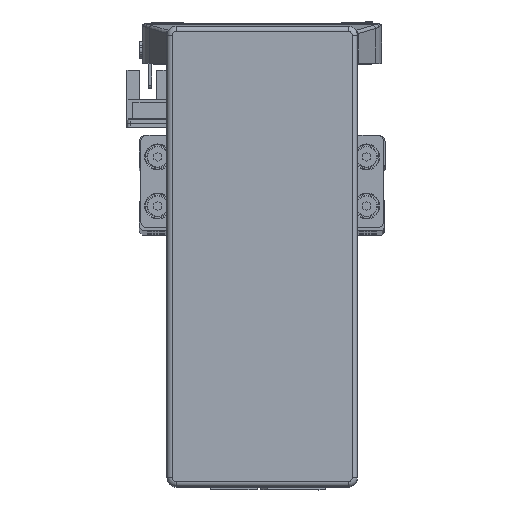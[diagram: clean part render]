
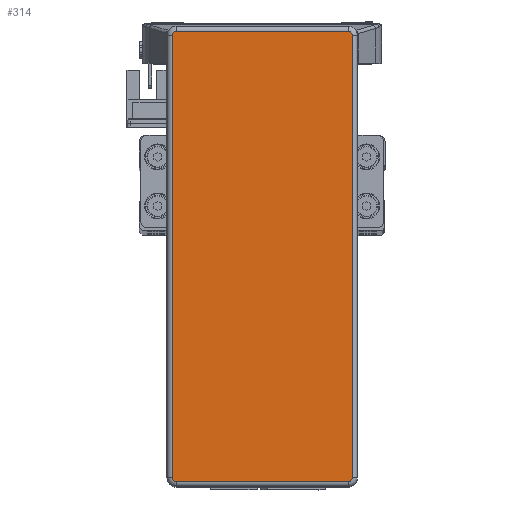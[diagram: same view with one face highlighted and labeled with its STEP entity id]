
A CAD part, top view. The second image highlights one B-rep face of the part: STEP entity #314.
In plain terms, the highlighted planar face has unit normal (0, 0, 1) as drawn and (0, 0, -1) by its records, which use the part's own axes.
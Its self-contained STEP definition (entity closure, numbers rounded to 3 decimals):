
#314 = ADVANCED_FACE ( 'NONE', ( #21073 ), #29589, .F. ) ;
#1032 = AXIS2_PLACEMENT_3D ( 'NONE', #20734, #20661, #20673 ) ;
#1038 = AXIS2_PLACEMENT_3D ( 'NONE', #20230, #20223, #20214 ) ;
#1049 = AXIS2_PLACEMENT_3D ( 'NONE', #20075, #20001, #20077 ) ;
#1100 = AXIS2_PLACEMENT_3D ( 'NONE', #20123, #20165, #20166 ) ;
#8658 = CARTESIAN_POINT ( 'NONE',  ( -73.295, -27.995, -32.2 ) ) ;
#8675 = CARTESIAN_POINT ( 'NONE',  ( 73.295, 27.995, -32.2 ) ) ;
#8703 = CARTESIAN_POINT ( 'NONE',  ( -73.295, 27.995, -32.2 ) ) ;
#8725 = CARTESIAN_POINT ( 'NONE',  ( -71.995, 29.295, -32.2 ) ) ;
#8738 = CARTESIAN_POINT ( 'NONE',  ( 73.295, -27.995, -32.2 ) ) ;
#9630 = CIRCLE ( 'NONE', #1100, 1.3 ) ;
#9636 = LINE ( 'NONE', #20069, #9665 ) ;
#9641 = LINE ( 'NONE', #20045, #9687 ) ;
#9643 = CIRCLE ( 'NONE', #1049, 1.3 ) ;
#9644 = LINE ( 'NONE', #20031, #9692 ) ;
#9647 = CIRCLE ( 'NONE', #1038, 1.3 ) ;
#9648 = VECTOR ( 'NONE', #20234, 1000. ) ;
#9665 = VECTOR ( 'NONE', #20073, 1000. ) ;
#9675 = LINE ( 'NONE', #20224, #9648 ) ;
#9687 = VECTOR ( 'NONE', #19988, 1000. ) ;
#9692 = VECTOR ( 'NONE', #20016, 1000. ) ;
#9711 = CIRCLE ( 'NONE', #1032, 1.3 ) ;
#17332 = EDGE_LOOP ( 'NONE', ( #22230, #22211, #22259, #22244, #22200, #22212, #22260, #22227 ) ) ;
#19290 = VERTEX_POINT ( 'NONE', #38061 ) ;
#19312 = VERTEX_POINT ( 'NONE', #38136 ) ;
#19314 = VERTEX_POINT ( 'NONE', #38126 ) ;
#19988 = DIRECTION ( 'NONE',  ( -1., 0., 0. ) ) ;
#20001 = DIRECTION ( 'NONE',  ( 0., 0., -1. ) ) ;
#20016 = DIRECTION ( 'NONE',  ( 0., -1., 0. ) ) ;
#20031 = CARTESIAN_POINT ( 'NONE',  ( 73.295, -27.995, -32.2 ) ) ;
#20045 = CARTESIAN_POINT ( 'NONE',  ( 71.995, -29.295, -32.2 ) ) ;
#20069 = CARTESIAN_POINT ( 'NONE',  ( 71.995, 29.295, -32.2 ) ) ;
#20073 = DIRECTION ( 'NONE',  ( 1., 0., 0. ) ) ;
#20075 = CARTESIAN_POINT ( 'NONE',  ( -71.995, 27.995, -32.2 ) ) ;
#20077 = DIRECTION ( 'NONE',  ( 1., 0., 0. ) ) ;
#20123 = CARTESIAN_POINT ( 'NONE',  ( 71.995, 27.995, -32.2 ) ) ;
#20165 = DIRECTION ( 'NONE',  ( 0., 0., -1. ) ) ;
#20166 = DIRECTION ( 'NONE',  ( 1., 0., 0. ) ) ;
#20214 = DIRECTION ( 'NONE',  ( 1., 0., 0. ) ) ;
#20223 = DIRECTION ( 'NONE',  ( 0., 0., -1. ) ) ;
#20224 = CARTESIAN_POINT ( 'NONE',  ( -73.295, -27.995, -32.2 ) ) ;
#20230 = CARTESIAN_POINT ( 'NONE',  ( -71.995, -27.995, -32.2 ) ) ;
#20234 = DIRECTION ( 'NONE',  ( 0., 1., 0. ) ) ;
#20661 = DIRECTION ( 'NONE',  ( 0., 0., -1. ) ) ;
#20673 = DIRECTION ( 'NONE',  ( 1., 0., 0. ) ) ;
#20734 = CARTESIAN_POINT ( 'NONE',  ( 71.995, -27.995, -32.2 ) ) ;
#21073 = FACE_OUTER_BOUND ( 'NONE', #17332, .T. ) ;
#22200 = ORIENTED_EDGE ( 'NONE', *, *, #25359, .T. ) ;
#22211 = ORIENTED_EDGE ( 'NONE', *, *, #25411, .T. ) ;
#22212 = ORIENTED_EDGE ( 'NONE', *, *, #25325, .T. ) ;
#22227 = ORIENTED_EDGE ( 'NONE', *, *, #25344, .T. ) ;
#22230 = ORIENTED_EDGE ( 'NONE', *, *, #25337, .T. ) ;
#22244 = ORIENTED_EDGE ( 'NONE', *, *, #25360, .T. ) ;
#22259 = ORIENTED_EDGE ( 'NONE', *, *, #25335, .T. ) ;
#22260 = ORIENTED_EDGE ( 'NONE', *, *, #25332, .T. ) ;
#25325 = EDGE_CURVE ( 'NONE', #45003, #44999, #9643, .T. ) ;
#25332 = EDGE_CURVE ( 'NONE', #44999, #19312, #9636, .T. ) ;
#25335 = EDGE_CURVE ( 'NONE', #19314, #19290, #9641, .T. ) ;
#25337 = EDGE_CURVE ( 'NONE', #44961, #44996, #9644, .T. ) ;
#25344 = EDGE_CURVE ( 'NONE', #19312, #44961, #9630, .T. ) ;
#25359 = EDGE_CURVE ( 'NONE', #44959, #45003, #9675, .T. ) ;
#25360 = EDGE_CURVE ( 'NONE', #19290, #44959, #9647, .T. ) ;
#25411 = EDGE_CURVE ( 'NONE', #44996, #19314, #9711, .T. ) ;
#26090 = AXIS2_PLACEMENT_3D ( 'NONE', #29571, #29587, #29572 ) ;
#29571 = CARTESIAN_POINT ( 'NONE',  ( 71.995, -27.995, -32.2 ) ) ;
#29572 = DIRECTION ( 'NONE',  ( 1., 0., 0. ) ) ;
#29587 = DIRECTION ( 'NONE',  ( 0., 0., 1. ) ) ;
#29589 = PLANE ( 'NONE',  #26090 ) ;
#38061 = CARTESIAN_POINT ( 'NONE',  ( -71.995, -29.295, -32.2 ) ) ;
#38126 = CARTESIAN_POINT ( 'NONE',  ( 71.995, -29.295, -32.2 ) ) ;
#38136 = CARTESIAN_POINT ( 'NONE',  ( 71.995, 29.295, -32.2 ) ) ;
#44959 = VERTEX_POINT ( 'NONE', #8658 ) ;
#44961 = VERTEX_POINT ( 'NONE', #8675 ) ;
#44996 = VERTEX_POINT ( 'NONE', #8738 ) ;
#44999 = VERTEX_POINT ( 'NONE', #8725 ) ;
#45003 = VERTEX_POINT ( 'NONE', #8703 ) ;
